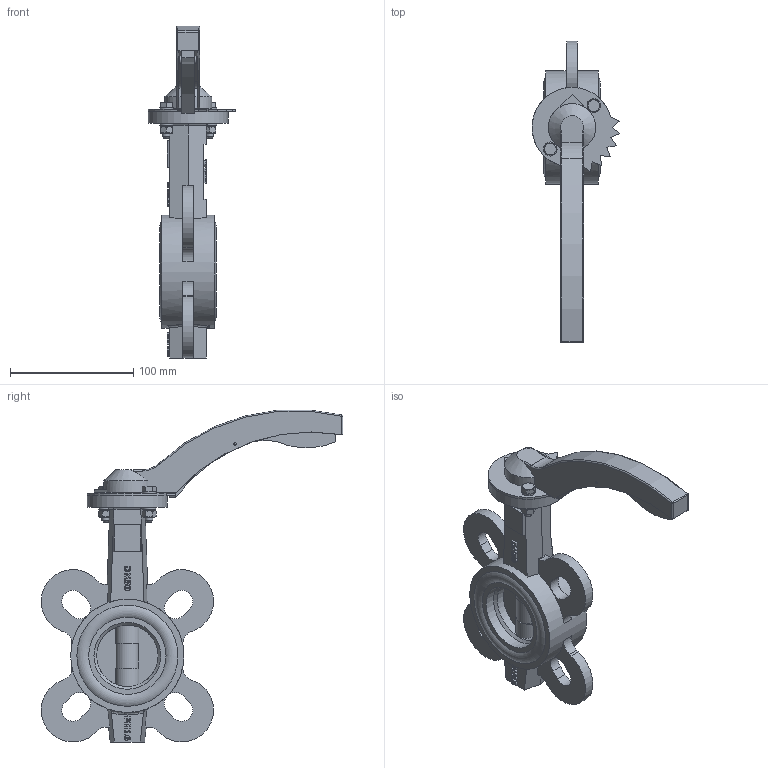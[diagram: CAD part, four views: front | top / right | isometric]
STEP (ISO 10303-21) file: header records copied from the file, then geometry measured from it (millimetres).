
FILE_DESCRIPTION(('STEP AP242'), '1');
FILE_NAME('Ïîâîðîòíûé çàòâîð ïîä ýëåêòðîïðèâîä', '', ('UNSPECIFIED'), ('UNSPECIFIED'), 'C3D Converter', 'C3D Toolkit', '');
FILE_SCHEMA(('AP242_MANAGED_MODEL_BASED_3D_ENGINEERING_MIM_LF { 1 0 10303 442 1 1 4 }'));
Length unit declared in the file: millimetre
Products named in the file (14): П
Assembly tree (20 placements, depth 3):
  (unnamed)
    (unnamed)
    П  x2
    (unnamed)
    (unnamed)
    (unnamed)
    (unnamed)
      (unnamed)
      (unnamed)
      (unnamed)
    (unnamed)  x2
    (unnamed)  x4
    (unnamed)  x2
    (unnamed)  x2
Bounding box: 71.39 x 245 x 269.61 mm (x, y, z)
Volume: 447652.5 mm3; surface area: 166668.7 mm2
Topology: 19 solids, 19 shells, 573 faces, 1457 edges, 948 vertices
Faces by surface type: plane 294, extrusion 135, cylinder 108, cone 18, torus 10, bspline 6, sphere 2
Full cylindrical faces by diameter (mm): 2 x2, 3 x2, 4.917 x2, 5.721 x1, 6 x4, 6.6 x4, 7 x6, 11 x4, 14 x6, 19.799 x5, 20.235 x4, 22.627 x1, 50 x1, 54.26 x2, 62.78 x2, 65 x1, 72.42 x4, 82.06 x4, 92 x1
Entity records: 22188 total; most frequent: CARTESIAN_POINT 7239, ORIENTED_EDGE 2594, DIRECTION 2120, EDGE_CURVE 1297, VERTEX_POINT 888, VECTOR 842, LINE 707, EDGE_LOOP 661
